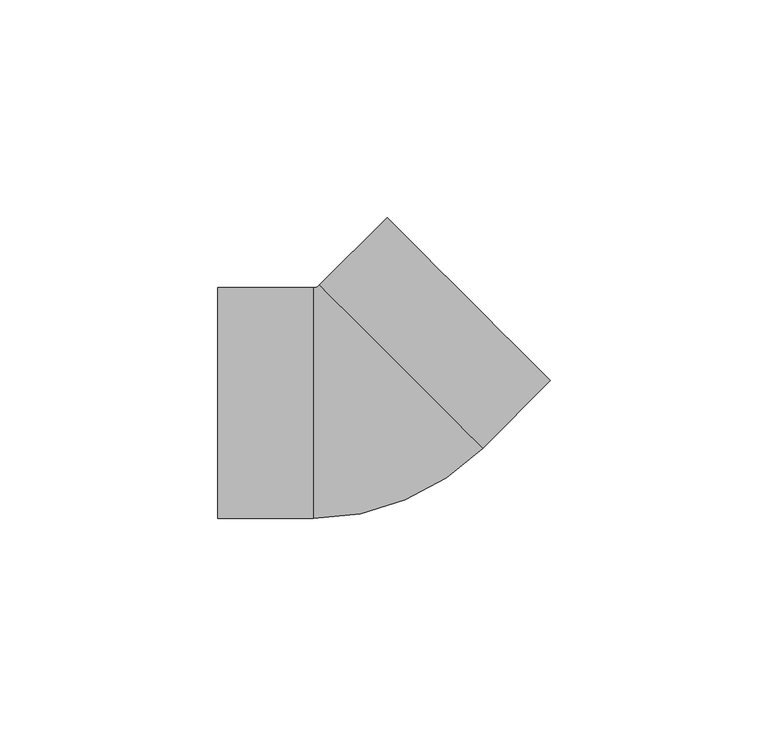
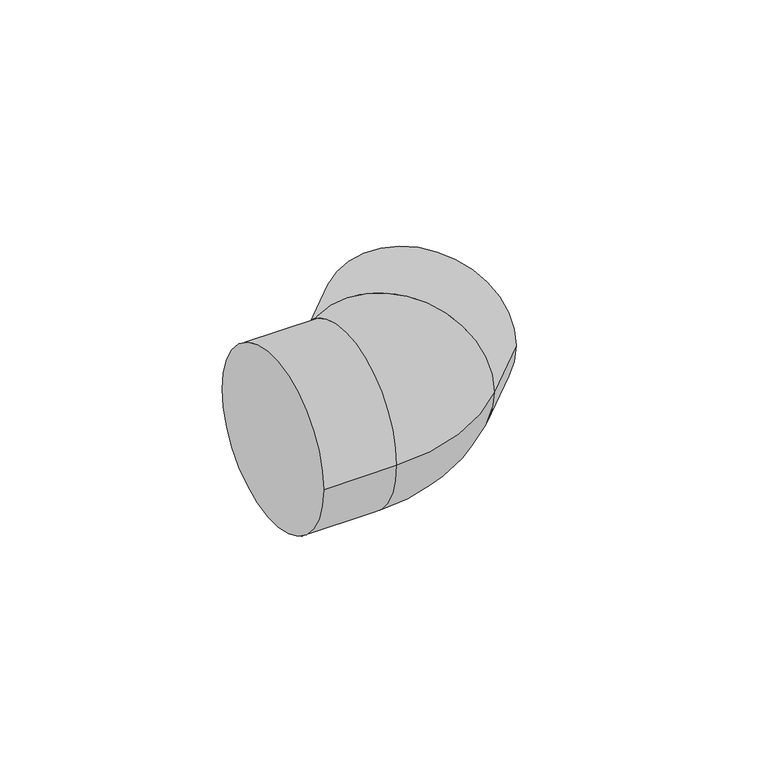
"""IFC4 building model written with IfcOpenShell, lengths in millimetres: pipe fitting geometry, NIRON RED termofusion codo : Estándar."""

from ifc_helpers import new_model, si_unit, point, frame, origin, place, context, project, spatial, circle_curve, ellipse_curve, trimmed, source, transform, mapped, element, save
from ifc_brep_helpers import plane_surface, cylinder_surface, revolved_surface, advanced_brep


def pipe_fitting_1730cd66(model_context):
    return source(origin(), model_context, "Body", "AdvancedBrep", [
        advanced_brep(
        [(-33.7704094, -26.5, 0.0), (-33.7704094, 26.5, 0.0), (-11.7704094, -26.5, 0.0), (-11.7704094, 26.5, 0.0), (-10.4153934, 27.061266, 0.0), (27.061266, -10.4153934, 0.0), (42.6176152, 5.1409558, 0.0), (5.1409558, 42.6176152, 0.0)],
        [
            (0, 1, circle_curve(frame((-33.7704094, 0.0, 0.0), z_axis=(-1.0, 0.0, 0.0), x_axis=(0.0, 1.0, 0.0)), 26.5)),
            (1, 0, circle_curve(frame((-33.7704094, 0.0, 0.0), z_axis=(-1.0, 0.0, 0.0), x_axis=(0.0, 1.0, 0.0)), 26.5)),
            (0, 2),
            (2, 3, circle_curve(frame((-11.7704094, 0.0, 0.0), z_axis=(-1.0, 0.0, 0.0), x_axis=(0.0, 1.0, 0.0)), 26.5)),
            (3, 1),
            (3, 2, circle_curve(frame((-11.7704094, 0.0, 0.0), z_axis=(-1.0, 0.0, 0.0), x_axis=(0.0, 1.0, 0.0)), 26.5)),
            (4, 3, circle_curve(frame((-11.7704094, 28.416282, 0.0), z_axis=(0.0, 0.0, -1.0), x_axis=(0.0, -1.0, 0.0)), 1.916282)),
            (2, 5, circle_curve(frame((-11.7704094, 28.416282, 0.0), z_axis=(0.0, 0.0, 1.0), x_axis=(0.0, -1.0, 0.0)), 54.916282)),
            (5, 4, circle_curve(frame((8.3229363, 8.3229363, 0.0), z_axis=(-0.707106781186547, -0.707106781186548, 0.0), x_axis=(-0.707106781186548, 0.707106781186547, 0.0)), 26.5)),
            (4, 5, circle_curve(frame((8.3229363, 8.3229363, 0.0), z_axis=(-0.707106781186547, -0.707106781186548, 0.0), x_axis=(-0.707106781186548, 0.707106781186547, 0.0)), 26.5)),
            (6, 7, circle_curve(frame((23.8792855, 23.8792855, 0.0), z_axis=(0.7071067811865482, 0.7071067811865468, 0.0), x_axis=(-0.7071067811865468, 0.7071067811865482, 0.0)), 26.5)),
            (7, 6, circle_curve(frame((23.8792855, 23.8792855, 0.0), z_axis=(0.7071067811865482, 0.7071067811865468, 0.0), x_axis=(-0.7071067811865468, 0.7071067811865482, 0.0)), 26.5)),
            (7, 4),
            (5, 6),
        ],
        [
            plane_surface(frame((-33.7704094, 0.0, 0.0), z_axis=(-1.0, 0.0, 0.0), x_axis=(0.0, 0.0, 1.0))),
            cylinder_surface(frame((-33.7704094, 0.0, 0.0), z_axis=(-1.0, 0.0, 0.0), x_axis=(0.0, 1.0, 0.0)), 26.5),
            revolved_surface(trimmed(ellipse_curve(frame((-11.7704094, 0.0, 0.0), z_axis=(-1.0, 0.0, 0.0), x_axis=(0.0, 1.0, 0.0)), 26.5, 26.5), [point((-11.7704094, -26.5, 0.0))], [point((-11.7704094, 26.5, 0.0))], True, "CARTESIAN"), (-11.7704094, 28.416282, 0.0), (0.0, 0.0, 1.0)),
            revolved_surface(trimmed(ellipse_curve(frame((-11.7704094, 0.0, 0.0), z_axis=(-1.0, 0.0, 0.0), x_axis=(0.0, 1.0, 0.0)), 26.5, 26.5), [point((-11.7704094, 26.5, 0.0))], [point((-11.7704094, -26.5, 0.0))], True, "CARTESIAN"), (-11.7704094, 28.416282, 0.0), (0.0, 0.0, 1.0)),
            plane_surface(frame((23.8792855, 23.8792855, 0.0), z_axis=(0.7071067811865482, 0.7071067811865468, 0.0), x_axis=(0.0, 0.0, 1.0))),
            cylinder_surface(frame((8.3229363, 8.3229363, 0.0), z_axis=(-0.7071067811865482, -0.7071067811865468, 0.0), x_axis=(-0.7071067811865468, 0.7071067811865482, 0.0)), 26.5),
        ],
        [
            (0, [[1, 2]]),
            (1, [[-1, 3, 4, 5]]),
            (1, [[-2, -5, 6, -3]]),
            (2, [[7, -4, 8, 9]]),
            (3, [[-7, 10, -8, -6]]),
            (4, [[11, 12]]),
            (5, [[-12, 13, -9, 14]]),
            (5, [[-11, -14, -10, -13]]),
        ],
    ),
    ])


if __name__ == "__main__":
    model = new_model("IFC4")
    model_context = context("Model", 3, world=origin())
    ifc_project = project(units=[si_unit("LENGTHUNIT", "METRE", prefix="MILLI")], contexts=[model_context])
    site = spatial("IfcSite", under=ifc_project)
    building = spatial("IfcBuilding", under=site)
    placement = place(None, origin())
    pipe_fitting_shape = pipe_fitting_1730cd66(model_context)
    element("IfcPipeFitting", 1, ObjectType="NIRON RED termofusion codo : Estándar", at=placement, inside=building, context=model_context, shape_type="MappedRepresentation", body=[
        mapped(pipe_fitting_shape, transform((0.0, 0.0, 0.0), x_axis=(1.0, 0.0, 0.0), y_axis=(0.0, 1.0, 0.0), z_axis=(0.0, 0.0, 1.0))),
    ])
    save(model, "model.ifc")
